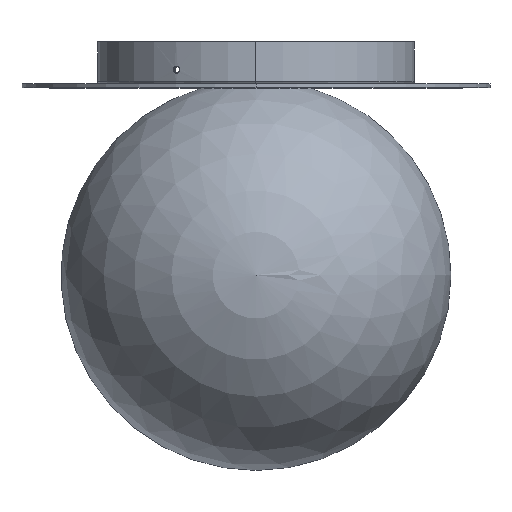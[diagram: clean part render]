
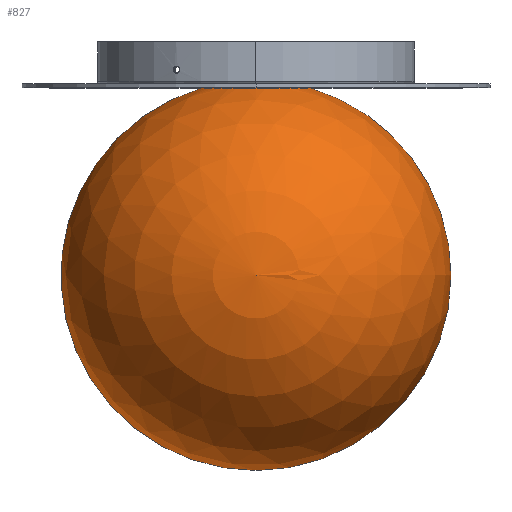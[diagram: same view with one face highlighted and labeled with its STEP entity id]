
A CAD part, top view. The second image highlights one B-rep face of the part: STEP entity #827.
In plain terms, the highlighted spherical face has radius 125 mm.
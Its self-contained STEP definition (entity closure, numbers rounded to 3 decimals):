
#11 = CARTESIAN_POINT ( 'NONE',  ( 0., 0., 0. ) ) ;
#50 = EDGE_CURVE ( 'NONE', #1498, #1320, #403, .T. ) ;
#90 = EDGE_CURVE ( 'NONE', #1260, #1320, #2592, .T. ) ;
#111 = EDGE_LOOP ( 'NONE', ( #1729, #2470, #731 ) ) ;
#250 = SPHERICAL_SURFACE ( 'NONE', #2800, 125. ) ;
#309 = CIRCLE ( 'NONE', #723, 125. ) ;
#340 = CARTESIAN_POINT ( 'NONE',  ( 35., 120., 0. ) ) ;
#389 = DIRECTION ( 'NONE',  ( 0., 0., -1. ) ) ;
#403 = CIRCLE ( 'NONE', #1934, 125. ) ;
#719 = FACE_OUTER_BOUND ( 'NONE', #111, .T. ) ;
#723 = AXIS2_PLACEMENT_3D ( 'NONE', #1910, #389, #2147 ) ;
#731 = ORIENTED_EDGE ( 'NONE', *, *, #90, .F. ) ;
#827 = ADVANCED_FACE ( 'NONE', ( #719 ), #250, .T. ) ;
#1260 = VERTEX_POINT ( 'NONE', #2658 ) ;
#1287 = AXIS2_PLACEMENT_3D ( 'NONE', #1864, #1636, #3050 ) ;
#1289 = DIRECTION ( 'NONE',  ( 1., 0., 0. ) ) ;
#1320 = VERTEX_POINT ( 'NONE', #340 ) ;
#1498 = VERTEX_POINT ( 'NONE', #2778 ) ;
#1586 = EDGE_CURVE ( 'NONE', #1498, #1260, #309, .T. ) ;
#1636 = DIRECTION ( 'NONE',  ( 0., 1., 0. ) ) ;
#1729 = ORIENTED_EDGE ( 'NONE', *, *, #1586, .F. ) ;
#1864 = CARTESIAN_POINT ( 'NONE',  ( 0., 120., 0. ) ) ;
#1910 = CARTESIAN_POINT ( 'NONE',  ( 0., 0., 0. ) ) ;
#1934 = AXIS2_PLACEMENT_3D ( 'NONE', #2275, #2498, #2972 ) ;
#2147 = DIRECTION ( 'NONE',  ( -1., 0., 0. ) ) ;
#2275 = CARTESIAN_POINT ( 'NONE',  ( 0., 0., 0. ) ) ;
#2470 = ORIENTED_EDGE ( 'NONE', *, *, #50, .T. ) ;
#2498 = DIRECTION ( 'NONE',  ( 0., 0., 1. ) ) ;
#2592 = CIRCLE ( 'NONE', #1287, 35. ) ;
#2658 = CARTESIAN_POINT ( 'NONE',  ( -35., 120., 0. ) ) ;
#2778 = CARTESIAN_POINT ( 'NONE',  ( 0., -125., 0. ) ) ;
#2800 = AXIS2_PLACEMENT_3D ( 'NONE', #11, #2915, #1289 ) ;
#2915 = DIRECTION ( 'NONE',  ( 0., 0., -1. ) ) ;
#2972 = DIRECTION ( 'NONE',  ( 1., 0., 0. ) ) ;
#3050 = DIRECTION ( 'NONE',  ( -1., 0., 0. ) ) ;
